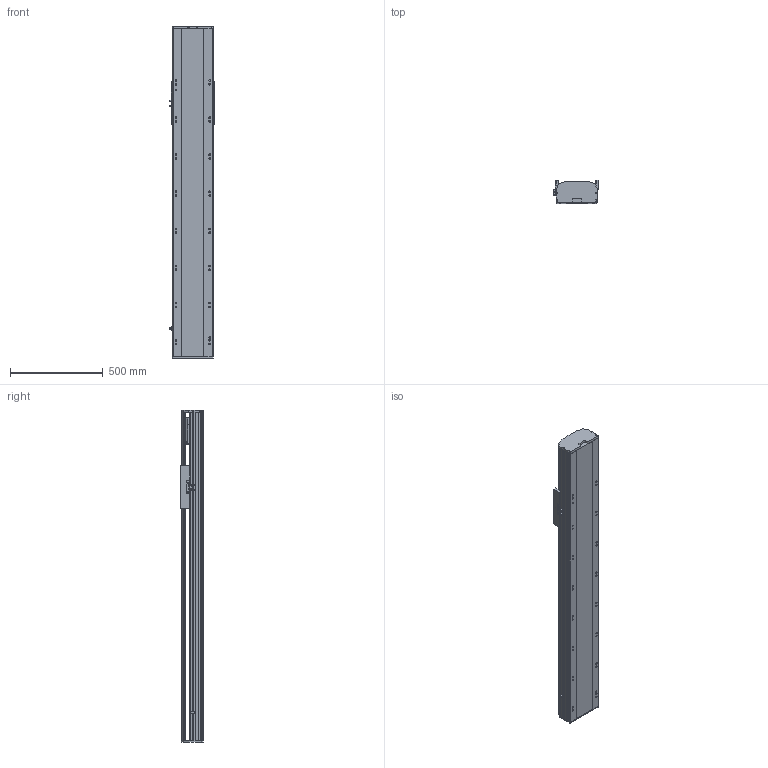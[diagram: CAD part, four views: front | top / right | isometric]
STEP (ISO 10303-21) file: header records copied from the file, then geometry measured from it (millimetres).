
FILE_DESCRIPTION (( 'STEP AP214' ), '1' );
FILE_NAME ('RTH22-XX-1200-B-M75-C4.STEP', '2025-10-24T10:33:42', ( 'Microsoft' ), ( 'Microsoft' ), 'SwSTEP 2.0', 'SolidWorks 2018', '' );
FILE_SCHEMA (( 'AUTOMOTIVE_DESIGN' ));
Length unit declared in the file: millimetre
Products named in the file (9): N_RTH22-GY-001耜裔^RTH22-XX-XX-B-M75-C4; N_RTH22-GY-013外置感应片^RTH22-XX-XX-B-M75-C4; RTH22-XX-1200-B-M75-C4; N_OMRON EE-SX672 传感器^RTH22-XX-XX-B-M75-C4; N_750W萇儂^RTH22-XX-XX-B-M75-C4; N_RTH22-E-004-SFS25賑釱^RTH22-XX-XX-B-M75-C4; N_RTH22-B-007奻裔^RTH22-XX-XX-B-M75-C4; N_RTH22-B-008萇儂啣^RTH22-XX-XX-B-M75-C4; N_RTH22-B-011菁釱^RTH22-XX-XX-B-M75-C4
Assembly tree (10 placements, depth 2):
  RTH22-XX-1200-B-M75-C4
    N_RTH22-B-011菁釱^RTH22-XX-XX-B-M75-C4
    N_RTH22-GY-001耜裔^RTH22-XX-XX-B-M75-C4
    N_750W萇儂^RTH22-XX-XX-B-M75-C4
    N_RTH22-B-008萇儂啣^RTH22-XX-XX-B-M75-C4
    N_RTH22-B-007奻裔^RTH22-XX-XX-B-M75-C4
    N_OMRON EE-SX672 传感器^RTH22-XX-XX-B-M75-C4  x3
    N_RTH22-GY-013外置感应片^RTH22-XX-XX-B-M75-C4
    N_RTH22-E-004-SFS25賑釱^RTH22-XX-XX-B-M75-C4
Bounding box: 238.5 x 122 x 1790 mm (x, y, z)
Volume: 23822378.6 mm3; surface area: 2443773.6 mm2
Topology: 10 solids, 10 shells, 1551 faces, 4250 edges, 2743 vertices
Faces by surface type: plane 756, cylinder 454, bspline 279, cone 62
Entity records: 38749 total; most frequent: CARTESIAN_POINT 11993, ORIENTED_EDGE 5468, DIRECTION 5152, EDGE_CURVE 2734, VERTEX_POINT 1779, AXIS2_PLACEMENT_3D 1742, VECTOR 1668, LINE 1668
